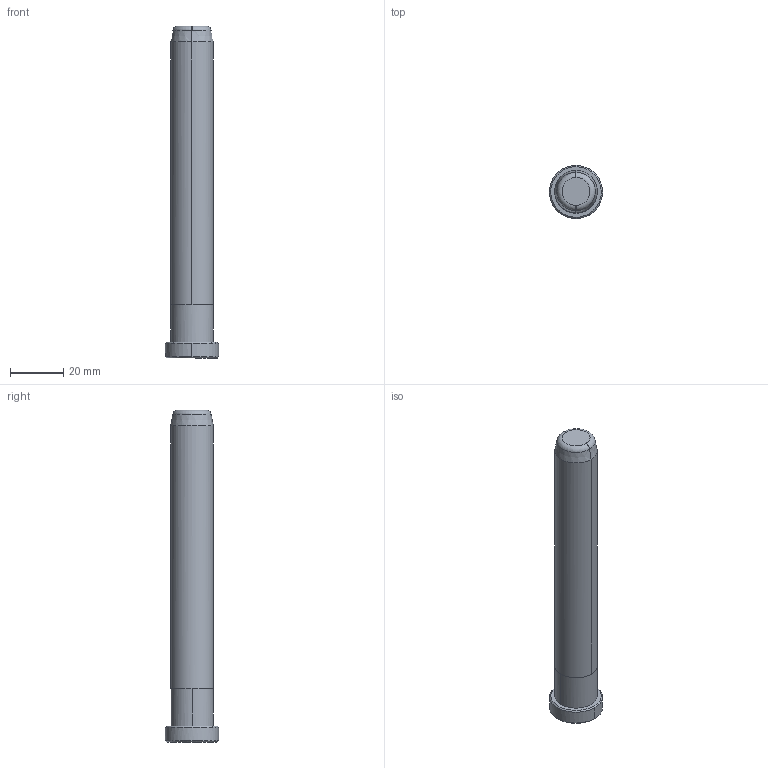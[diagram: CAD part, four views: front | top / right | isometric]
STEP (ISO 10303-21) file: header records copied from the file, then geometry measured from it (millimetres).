
FILE_DESCRIPTION(('CATIA V5 STEP Exchange'),'2;1');
FILE_NAME('C:\Users\Raffaele\Desktop\3D BOLEX\3D FILES CF BOLEX\12-PILLAR REF 858\B85816125.stp','2019-06-20T12:45:50+00:00',('none'),('none'),'CATIA Version 5 Release 20 GA (IN-10)','CATIA V5 STEP AP203','none');
FILE_SCHEMA(('CONFIG_CONTROL_DESIGN'));
Length unit declared in the file: millimetre
Products named in the file (1): B85816125
Bounding box: 20 x 20 x 125 mm (x, y, z)
Volume: 25626.9 mm3; surface area: 6859.1 mm2
Topology: 1 solids, 1 shells, 20 faces, 40 edges, 24 vertices
Faces by surface type: cone 6, cylinder 6, plane 4, torus 4
Entity records: 659 total; most frequent: CARTESIAN_POINT 218, ORIENTED_EDGE 80, DIRECTION 72, AXIS2_PLACEMENT_3D 41, EDGE_CURVE 40, VERTEX_POINT 24, EDGE_LOOP 22, ADVANCED_FACE 20
